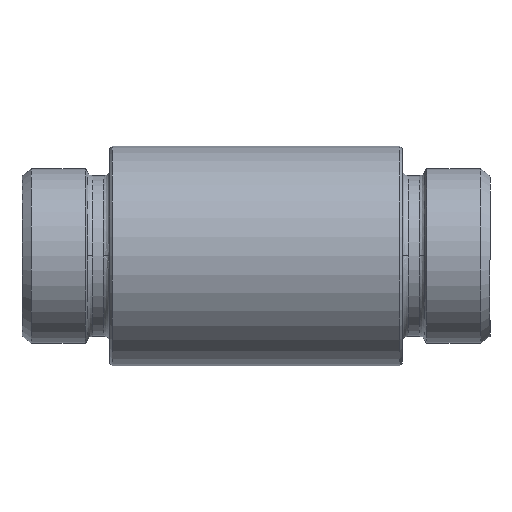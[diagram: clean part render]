
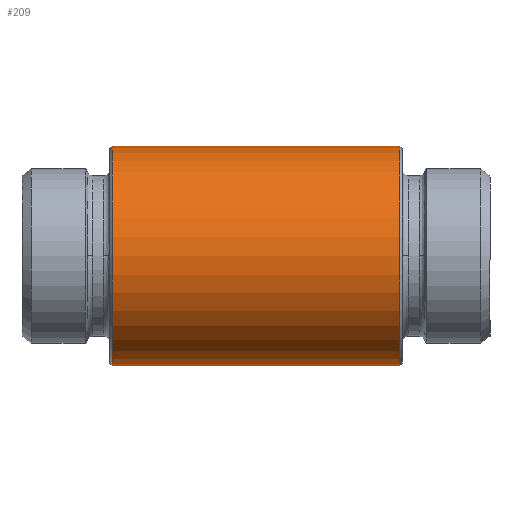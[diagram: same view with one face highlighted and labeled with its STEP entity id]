
A CAD part, top view. The second image highlights one B-rep face of the part: STEP entity #209.
In plain terms, the highlighted cylindrical face has radius 22.5 mm (diameter 45 mm), a partial arc.
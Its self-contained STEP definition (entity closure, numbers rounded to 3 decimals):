
#143=CARTESIAN_POINT('',(-22.5,0.,34.5));
#144=VERTEX_POINT('',#143);
#160=CARTESIAN_POINT('',(22.5,0.0,34.5));
#161=VERTEX_POINT('',#160);
#168=CARTESIAN_POINT('',(0.0,0.0,34.5));
#169=DIRECTION('',(0.0,0.0,1.0));
#170=DIRECTION('',(-1.0,0.0,0.0));
#171=AXIS2_PLACEMENT_3D('',#168,#169,#170);
#172=CIRCLE('',#171,22.5);
#173=EDGE_CURVE('',#161,#144,#172,.T.);
#178=CARTESIAN_POINT('',(0.0,0.0,-25.0));
#179=DIRECTION('',(0.0,0.0,1.0));
#180=DIRECTION('',(1.0,0.0,0.0));
#181=AXIS2_PLACEMENT_3D('',#178,#179,#180);
#182=CYLINDRICAL_SURFACE('',#181,22.5);
#183=CARTESIAN_POINT('',(22.5,0.0,-24.5));
#184=VERTEX_POINT('',#183);
#185=CARTESIAN_POINT('',(22.5,0.0,-24.5));
#186=DIRECTION('',(0.0,0.0,1.0));
#187=VECTOR('',#186,59.0);
#188=LINE('',#185,#187);
#189=EDGE_CURVE('',#184,#161,#188,.T.);
#190=ORIENTED_EDGE('',*,*,#189,.F.);
#191=CARTESIAN_POINT('',(-22.5,0.,-24.5));
#192=VERTEX_POINT('',#191);
#193=CARTESIAN_POINT('',(0.0,0.0,-24.5));
#194=DIRECTION('',(0.0,0.0,-1.0));
#195=DIRECTION('',(-1.0,0.0,0.0));
#196=AXIS2_PLACEMENT_3D('',#193,#194,#195);
#197=CIRCLE('',#196,22.5);
#198=EDGE_CURVE('',#192,#184,#197,.T.);
#199=ORIENTED_EDGE('',*,*,#198,.F.);
#200=CARTESIAN_POINT('',(-22.5,0.,34.5));
#201=DIRECTION('',(0.0,0.0,-1.0));
#202=VECTOR('',#201,59.0);
#203=LINE('',#200,#202);
#204=EDGE_CURVE('',#144,#192,#203,.T.);
#205=ORIENTED_EDGE('',*,*,#204,.F.);
#206=ORIENTED_EDGE('',*,*,#173,.F.);
#207=EDGE_LOOP('',(#190,#199,#205,#206));
#208=FACE_OUTER_BOUND('',#207,.T.);
#209=ADVANCED_FACE('',(#208),#182,.T.);
